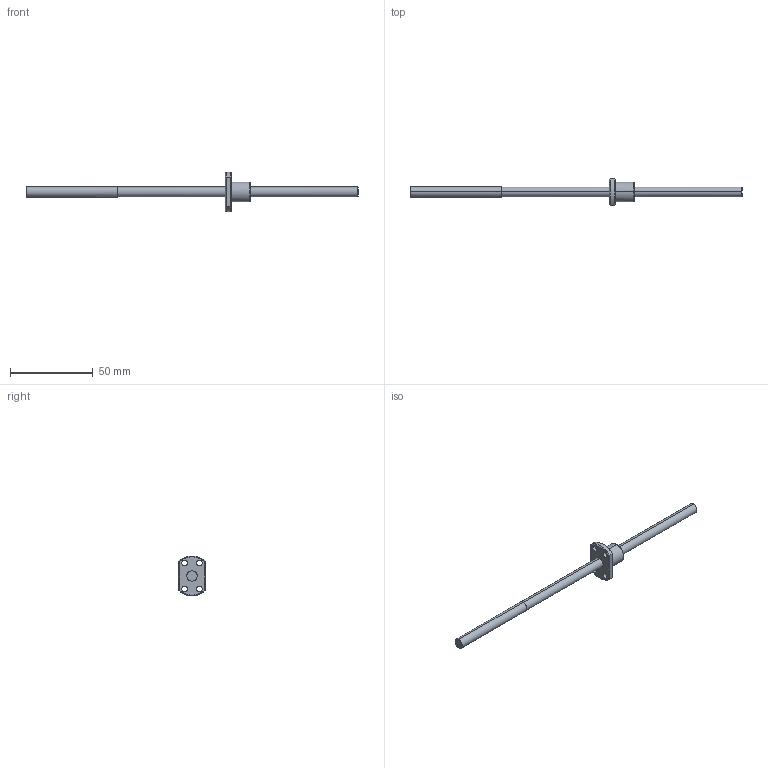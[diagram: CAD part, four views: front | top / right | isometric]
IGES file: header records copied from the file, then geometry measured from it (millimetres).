
Global section: file name: No Iges File Name specified; native system: AutoDesk Inventor R11.0; preprocessor: AutoDesk Inventor Iges Exporter R11.0; author: No Author specified; organization: No Organization specified; date: 20160202.105455; units: millimetre
Bounding box: 200 x 16 x 23.97 mm (x, y, z)
Surface area: 5502.3 mm2 (no closed solid volume)
Topology: 0 solids, 0 shells, 37 faces, 232 edges, 232 vertices
Faces by surface type: bspline 37
